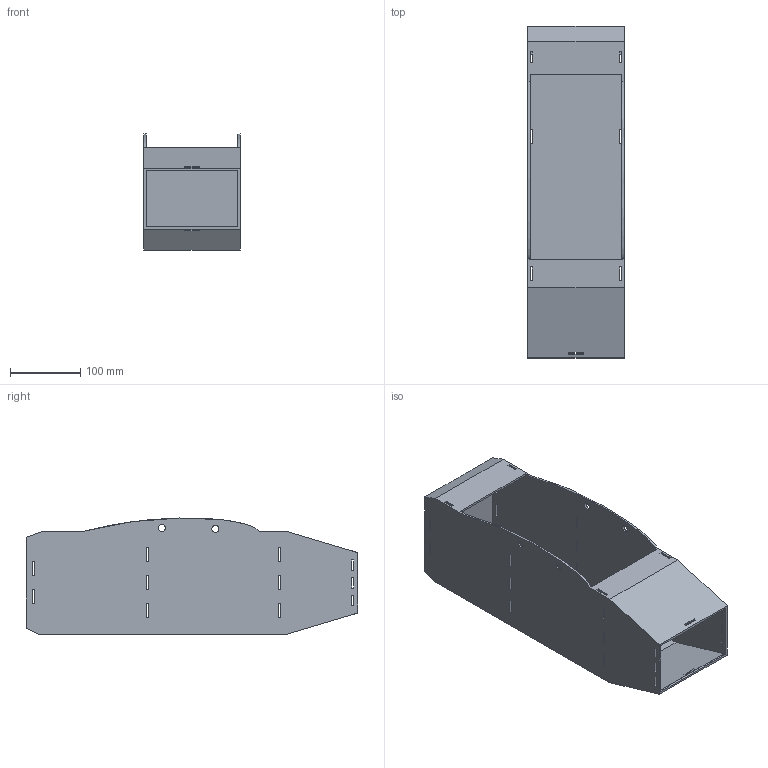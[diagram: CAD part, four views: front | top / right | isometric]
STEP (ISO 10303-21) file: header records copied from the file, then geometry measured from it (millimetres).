
FILE_DESCRIPTION(/* description */ (''),/* implementation_level */ '2;1');
FILE_NAME(/* name */ 'Skin v21.step',/* time_stamp */ '2023-09-02T13:56:20+03:00',/* author */ (''),/* organization */ (''),/* preprocessor_version */ 'ST-DEVELOPER v20',/* originating_system */ 'Autodesk Translation Framework v12.9.0.99',/* authorisation */ '');
FILE_SCHEMA (('AUTOMOTIVE_DESIGN { 1 0 10303 214 3 1 1 }'));
Length unit declared in the file: millimetre
Products named in the file (1): Skin
Bounding box: 137 x 473.5 x 165.51 mm (x, y, z)
Volume: 732262.1 mm3; surface area: 496748.7 mm2
Topology: 1 solids, 1 shells, 159 faces, 504 edges, 336 vertices
Faces by surface type: plane 153, cylinder 4, bspline 2
Full cylindrical faces by diameter (mm): 10 x4
Entity records: 7109 total; most frequent: CARTESIAN_POINT 2474, ORIENTED_EDGE 1008, DIRECTION 824, EDGE_CURVE 504, LINE 492, VECTOR 492, VERTEX_POINT 336, EDGE_LOOP 226
